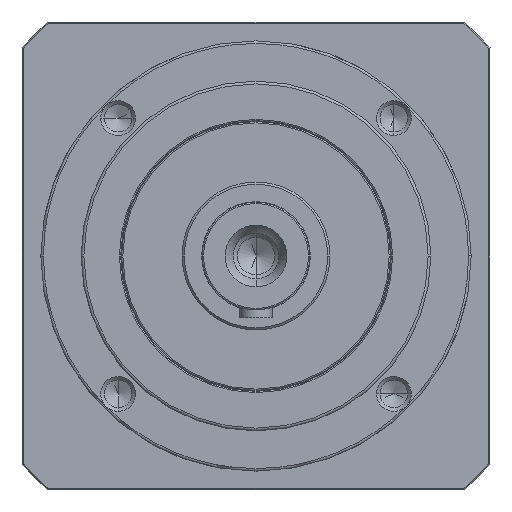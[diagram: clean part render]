
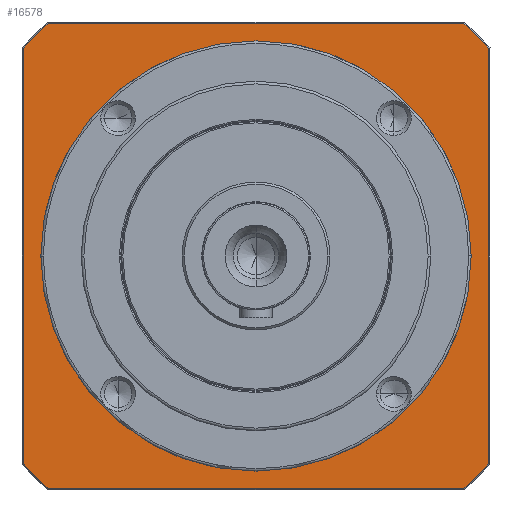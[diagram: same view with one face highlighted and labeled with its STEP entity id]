
A CAD part, left-side view. The second image highlights one B-rep face of the part: STEP entity #16578.
In plain terms, the highlighted planar face has unit normal (-1, 0, 0) as drawn and (0, 0, -1) by its records, which use the part's own axes.
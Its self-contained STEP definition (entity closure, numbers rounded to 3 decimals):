
#15464=CARTESIAN_POINT('',(0.,0.,
2.5));
#15465=DIRECTION('',(0.,0.,-1.));
#15466=DIRECTION('',(0.,-1.,0.));
#15467=AXIS2_PLACEMENT_3D('',#15464,#15465,#15466);
#15469=CARTESIAN_POINT('',(0.,0.,
2.5));
#15470=DIRECTION('',(0.,0.,-1.));
#15471=DIRECTION('',(0.,1.,0.));
#15472=AXIS2_PLACEMENT_3D('',#15469,#15470,#15471);
#15474=CARTESIAN_POINT('',(0.,0.,2.5));
#15475=DIRECTION('',(0.,0.,1.));
#15476=DIRECTION('',(-0.746,-0.666,0.));
#15477=AXIS2_PLACEMENT_3D('',#15474,#15475,#15476);
#15479=DIRECTION('',(1.,0.,0.));
#15480=VECTOR('',#15479,154.58);
#15481=CARTESIAN_POINT('',(-77.29,-86.5,
2.5));
#15482=LINE('',#15481,#15480);
#15483=CARTESIAN_POINT('',(0.,0.,2.5));
#15484=DIRECTION('',(0.,0.,1.));
#15485=DIRECTION('',(0.666,-0.746,0.));
#15486=AXIS2_PLACEMENT_3D('',#15483,#15484,#15485);
#15488=DIRECTION('',(0.,1.,0.));
#15489=VECTOR('',#15488,154.58);
#15490=CARTESIAN_POINT('',(86.5,-77.29,
2.5));
#15491=LINE('',#15490,#15489);
#15492=CARTESIAN_POINT('',(0.,0.,2.5));
#15493=DIRECTION('',(0.,0.,1.));
#15494=DIRECTION('',(0.746,0.666,0.));
#15495=AXIS2_PLACEMENT_3D('',#15492,#15493,#15494);
#15497=DIRECTION('',(-1.,0.,0.));
#15498=VECTOR('',#15497,154.58);
#15499=CARTESIAN_POINT('',(77.29,86.5,2.5));
#15500=LINE('',#15499,#15498);
#15501=CARTESIAN_POINT('',(0.,0.,2.5));
#15502=DIRECTION('',(0.,0.,1.));
#15503=DIRECTION('',(-0.666,0.746,0.));
#15504=AXIS2_PLACEMENT_3D('',#15501,#15502,#15503);
#15506=DIRECTION('',(0.,-1.,0.));
#15507=VECTOR('',#15506,154.58);
#15508=CARTESIAN_POINT('',(-86.5,77.29,
2.5));
#15509=LINE('',#15508,#15507);
#16227=CARTESIAN_POINT('',(0.,-69.5,2.5));
#16228=CARTESIAN_POINT('',(0.,69.5,
2.5));
#16229=VERTEX_POINT('',#16227);
#16230=VERTEX_POINT('',#16228);
#16331=CARTESIAN_POINT('',(-86.5,-77.29,2.5));
#16332=CARTESIAN_POINT('',(-77.29,-86.5,2.5));
#16333=VERTEX_POINT('',#16331);
#16334=VERTEX_POINT('',#16332);
#16339=CARTESIAN_POINT('',(77.29,-86.5,
2.5));
#16340=VERTEX_POINT('',#16339);
#16343=CARTESIAN_POINT('',(86.5,-77.29,2.5));
#16344=VERTEX_POINT('',#16343);
#16347=CARTESIAN_POINT('',(86.5,77.29,2.5));
#16348=VERTEX_POINT('',#16347);
#16351=CARTESIAN_POINT('',(77.29,86.5,2.5));
#16352=VERTEX_POINT('',#16351);
#16355=CARTESIAN_POINT('',(-77.29,86.5,
2.5));
#16356=VERTEX_POINT('',#16355);
#16361=CARTESIAN_POINT('',(-86.5,77.29,2.5));
#16362=VERTEX_POINT('',#16361);
#16550=CARTESIAN_POINT('',(0.,0.,2.5));
#16551=DIRECTION('',(0.,0.,1.));
#16552=DIRECTION('',(0.,1.,0.));
#16553=AXIS2_PLACEMENT_3D('',#16550,#16551,#16552);
#16554=PLANE('',#16553);
#16556=ORIENTED_EDGE('',*,*,#16555,.T.);
#16558=ORIENTED_EDGE('',*,*,#16557,.T.);
#16560=ORIENTED_EDGE('',*,*,#16559,.T.);
#16562=ORIENTED_EDGE('',*,*,#16561,.T.);
#16564=ORIENTED_EDGE('',*,*,#16563,.T.);
#16566=ORIENTED_EDGE('',*,*,#16565,.T.);
#16568=ORIENTED_EDGE('',*,*,#16567,.T.);
#16570=ORIENTED_EDGE('',*,*,#16569,.T.);
#16571=EDGE_LOOP('',(#16556,#16558,#16560,#16562,#16564,#16566,#16568,#16570));
#16572=FACE_OUTER_BOUND('',#16571,.F.);
#16574=ORIENTED_EDGE('',*,*,#16573,.T.);
#16575=ORIENTED_EDGE('',*,*,#16540,.T.);
#16576=EDGE_LOOP('',(#16574,#16575));
#16577=FACE_BOUND('',#16576,.F.);
#16578=ADVANCED_FACE('',(#16572,#16577),#16554,.F.);
#15468=CIRCLE('',#15467,69.5);
#15473=CIRCLE('',#15472,69.5);
#15478=CIRCLE('',#15477,116.);
#15487=CIRCLE('',#15486,116.);
#15496=CIRCLE('',#15495,116.);
#15505=CIRCLE('',#15504,116.);
#16540=EDGE_CURVE('',#16230,#16229,#15473,.T.);
#16555=EDGE_CURVE('',#16333,#16334,#15478,.T.);
#16557=EDGE_CURVE('',#16334,#16340,#15482,.T.);
#16559=EDGE_CURVE('',#16340,#16344,#15487,.T.);
#16561=EDGE_CURVE('',#16344,#16348,#15491,.T.);
#16563=EDGE_CURVE('',#16348,#16352,#15496,.T.);
#16565=EDGE_CURVE('',#16352,#16356,#15500,.T.);
#16567=EDGE_CURVE('',#16356,#16362,#15505,.T.);
#16569=EDGE_CURVE('',#16362,#16333,#15509,.T.);
#16573=EDGE_CURVE('',#16229,#16230,#15468,.T.);
